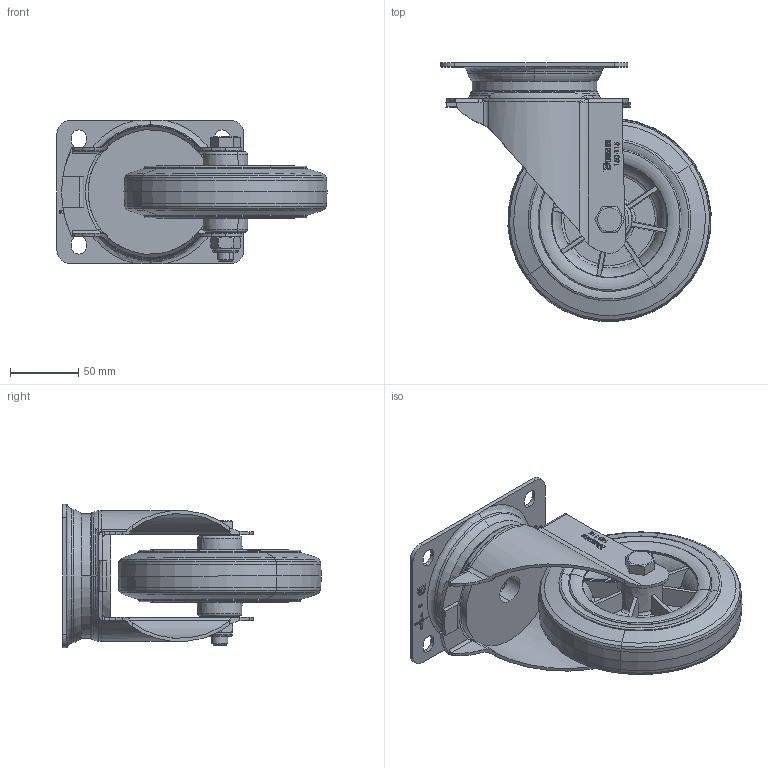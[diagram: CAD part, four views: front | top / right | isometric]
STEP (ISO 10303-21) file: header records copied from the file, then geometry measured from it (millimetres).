
FILE_DESCRIPTION (( 'STEP AP203' ), '1' );
FILE_NAME ('4115306002036-7.STEP', '2025-03-06T03:19:01', ( '' ), ( '' ), 'SwSTEP 2.0', 'SolidWorks 2019', '' );
FILE_SCHEMA (( 'CONFIG_CONTROL_DESIGN' ));
Length unit declared in the file: millimetre
Products named in the file (5): 黑色橡膠輪-展示用; 53經典活動架-6吋鉚合-展示用; 245011283001 歐規系列用車心M12x83L半牙 20220511; 4115306002036-7; 245021200005 尼龍螺帽 M12-P1.75
Assembly tree (4 placements, depth 2):
  4115306002036-7
    245011283001 歐規系列用車心M12x83L半牙 20220511
    245021200005 尼龍螺帽 M12-P1.75
    黑色橡膠輪-展示用
    53經典活動架-6吋鉚合-展示用
Bounding box: 197.89 x 189.39 x 105 mm (x, y, z)
Volume: 767525.5 mm3; surface area: 154058.2 mm2
Topology: 5 solids, 5 shells, 1018 faces, 2722 edges, 1772 vertices
Faces by surface type: plane 460, cylinder 205, bspline 186, torus 96, cone 69, sphere 2
Entity records: 44079 total; most frequent: CARTESIAN_POINT 19420, ORIENTED_EDGE 5440, DIRECTION 4437, EDGE_CURVE 2720, VERTEX_POINT 1772, AXIS2_PLACEMENT_3D 1533, VECTOR 1371, LINE 1371
